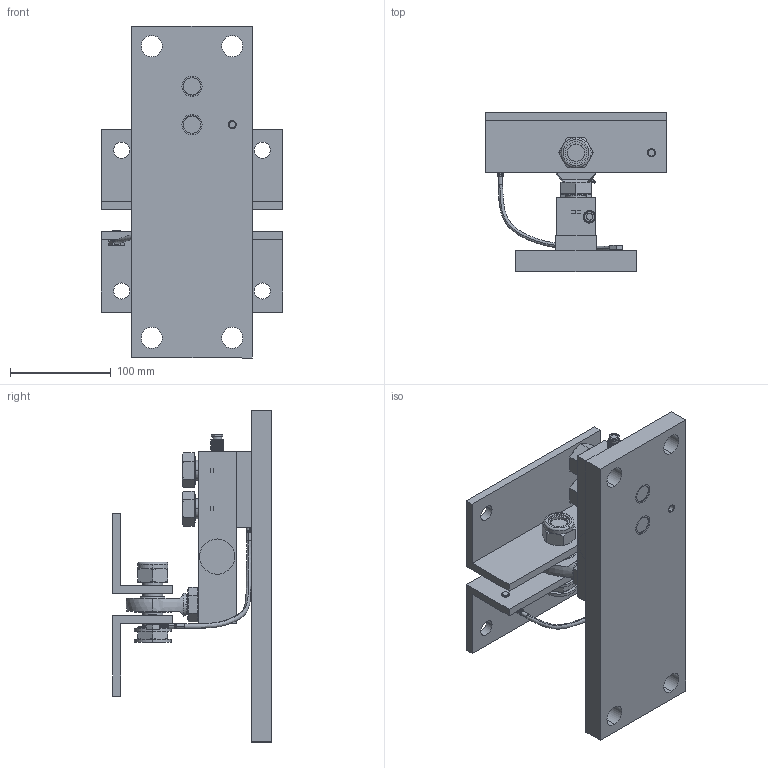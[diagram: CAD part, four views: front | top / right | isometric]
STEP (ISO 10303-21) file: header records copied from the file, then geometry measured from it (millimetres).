
FILE_DESCRIPTION((''),'1');
FILE_NAME('LMLAB_5t.step','2022-10-28T07:19:54',(''),(''),'','','');
FILE_SCHEMA(('AUTOMOTIVE_DESIGN { 1 0 10303 214 1 1 1 1 }'));
Products named in the file (25): LMLAB part 01; LMLAB part 03; LMLAB part 05; LMLAB cable 01; LMLAB part 06; LMLAB part 07; LMLAB cable 02; LMLAB 5t; LMLAB part 08; LMLAB body 01; LMLAB part 09; LMLAB part 10; LMLAB load cell 01; LMLAB body 03; LMLAB cable gland 01; LMLAB screw 01; LMLAB nut 01; LMLAB screw 02; LMLAB screw 03; LMLAB part 11; LMLAB nut 02; LMLAB screw 04; LMLAB part 12; LMLAB plate 01
Assembly tree (35 placements, depth 4):
  LMLAB 5t
    LMLAB part 06
      LMLAB part 01
        LMLAB part 03
        LMLAB part 05
        LMLAB cable 01
      LMLAB part 07
        LMLAB part 03
        LMLAB part 05
        LMLAB cable 01
      LMLAB cable 02
    LMLAB part 08
      LMLAB body 01
      LMLAB part 09
      LMLAB part 10
    LMLAB load cell 01
      LMLAB body 03
      LMLAB cable gland 01
    LMLAB 5t
    LMLAB screw 01  x2
    LMLAB nut 01
    LMLAB screw 02
    LMLAB screw 03  x6
    LMLAB part 11  x2
    LMLAB nut 02
    LMLAB screw 04  x2
    LMLAB part 12
    LMLAB plate 01
Bounding box: 180 x 158 x 330 mm (x, y, z)
Volume: 1538748.3 mm3; surface area: 317597.8 mm2
Topology: 29 solids, 34 shells, 782 faces, 1841 edges, 1129 vertices
Faces by surface type: cylinder 244, plane 232, cone 160, bspline 74, torus 70, sphere 2
Entity records: 24086 total; most frequent: CARTESIAN_POINT 10539, DIRECTION 2788, ORIENTED_EDGE 2536, EDGE_CURVE 1276, AXIS2_PLACEMENT_3D 1165, VERTEX_POINT 774, EDGE_LOOP 622, CIRCLE 606
